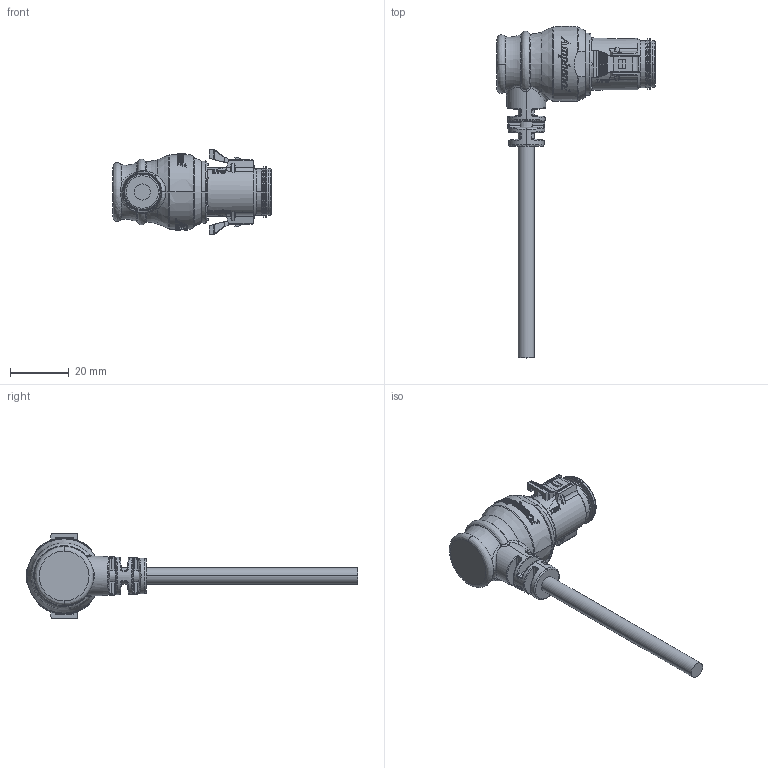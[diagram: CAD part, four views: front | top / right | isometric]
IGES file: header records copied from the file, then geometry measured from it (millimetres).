
Start section:  PTC IGES file: CD-04AMFM-RR7AXX.igs
Global section: file name: CD-04AMFM-RR7AXX.igs; native system: Creo Parametric by Parametric Technology Corporation; preprocessor: 2013050; author: KS7307; organization: Unknown; date: 20150826.200440; units: millimetre
Bounding box: 53.8 x 112.95 x 28.81 mm (x, y, z)
Volume: 21175.9 mm3; surface area: 8370.1 mm2
Topology: 1 solids, 4 shells, 1425 faces, 4009 edges, 2638 vertices
Faces by surface type: bspline 893, revolution 314, extrusion 218
